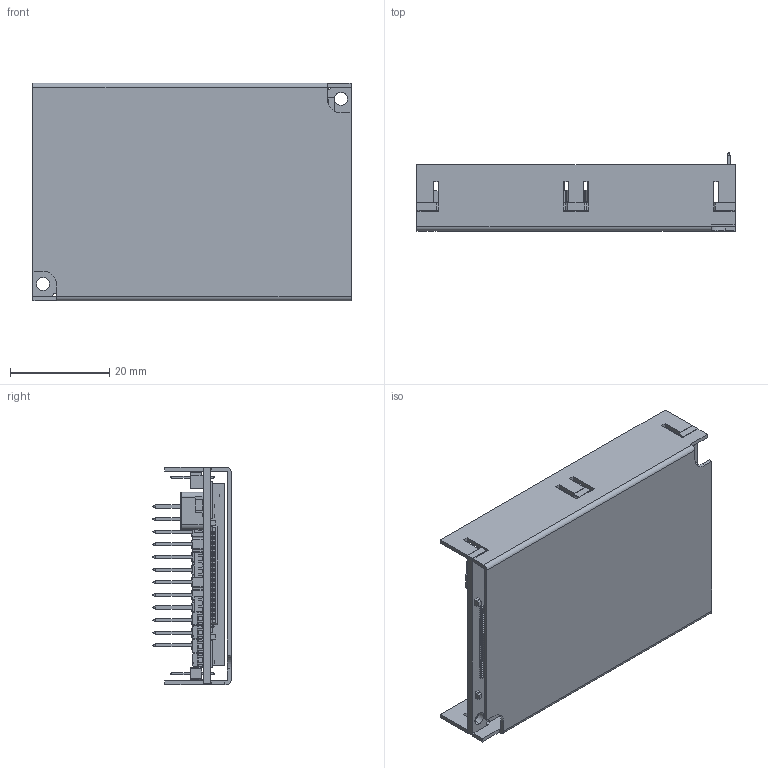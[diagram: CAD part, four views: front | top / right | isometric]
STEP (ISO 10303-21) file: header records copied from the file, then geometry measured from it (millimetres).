
FILE_DESCRIPTION (( 'STEP AP214' ), '1' );
FILE_NAME ('iPOS4815 MZ-CAN & CAT.step', '2025-01-15T15:46:29', ( '' ), ( '' ), 'SwSTEP 2.0', 'SolidWorks 2017', '' );
FILE_SCHEMA (( 'AUTOMOTIVE_DESIGN' ));
Length unit declared in the file: millimetre
Products named in the file (1): iPOS4815 MZ-CAN & CAT
Bounding box: 64 x 15.7 x 43.8 mm (x, y, z)
Volume: 11175.3 mm3; surface area: 23557.5 mm2
Topology: 322 solids, 322 shells, 6619 faces, 16386 edges, 10634 vertices
Faces by surface type: plane 5546, cylinder 1054, torus 17, bspline 2
Entity records: 223045 total; most frequent: CARTESIAN_POINT 34124, ORIENTED_EDGE 32772, DIRECTION 31600, EDGE_CURVE 16386, VECTOR 14240, LINE 14240, VERTEX_POINT 10634, AXIS2_PLACEMENT_3D 8680
